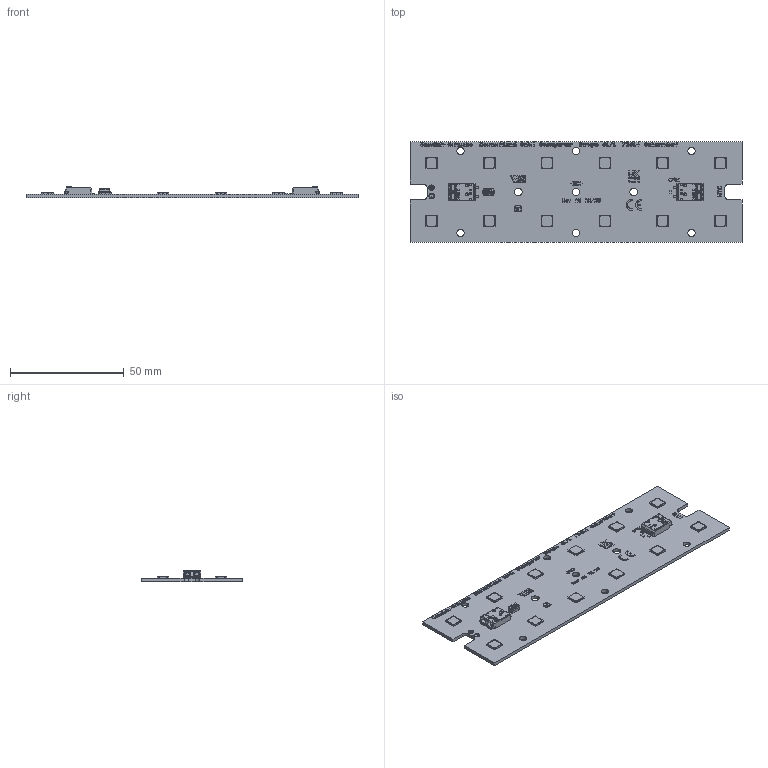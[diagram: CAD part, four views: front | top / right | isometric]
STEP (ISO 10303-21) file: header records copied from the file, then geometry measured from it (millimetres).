
FILE_DESCRIPTION(('Creo Elements/Direct Modeling STEP Export'),'2;1');
FILE_NAME('3D-Model_Image_MSP SC 2R_Z19_5050_T_12_yzz_G4.stp','2025-06-05T 9:51:57',(''),(''),'PTC Creo Elements/Direct Modeling STEP processor for AP214 (Solid Model)','PTC Creo Elements/Direct Modeling 19.0E 27-Jun-2016 (C) Parametric Technology GmbH','');
FILE_SCHEMA(('AUTOMOTIVE_DESIGN { 1 0 10303 214 1 1 1 1 }'));
Length unit declared in the file: millimetre
Products named in the file (115): p1; SMA__DO-214AC_.prt; SMA__DO-214AC_.STEP; Print.37; Print.38; Print.29; Print.34; Print.30; Print.31; Print.32; Print.35; Print.36; Print.33; Print.74; Print.76; Print.72; Print.75; Print.77; Print.78; Print.71; Print.79; Print.73; Print.80; Print.81; Print.94; Print.93; Print.95; Print.82; Print.89; Print.90; Print.83; Print.99; Print.101; Print.102; Print.92; Print.104; Print.84; Print.100; Print.87; Print.85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
Assembly tree (119 placements, depth 2):
  p1
  SMA__DO-214AC_.STEP
    SMA__DO-214AC_.prt
  Print_
    Print.105
    Print.23
    Print.24
    Print.22
    Print.20
    Print.19
    Print.18
    Print.28
    Print.27
    Print.26
    Print.21
    Print.25
    Print.15
    Print.16
    Print.17
    Print.14
    Print.11
    Print.10
    Print.12
    Print.9
    Print.7
    Print.13
    Print.8
    Print.49
    Print.50
    Print.59
    Print.56
    Print.58
    Print.54
    Print.53
    Print.52
    Print.51
    Print.55
    Print.61
    Print.63
    Print.70
    Print.65
    Print.69
    Print.68
    Print.67
    Print.66
    Print.62
    Print.60
    Print.64
    Print.3
    Print.2
    Print.1
    Print.4
    Print
    Print.5
    Print.6
    Print.44
    Print.46
    Print.41
    Print.40
    Print.39
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Bounding box: 146 x 44.4 x 4.95 mm (x, y, z)
Volume: 9702 mm3; surface area: 15200.9 mm2
Topology: 118 solids, 120 shells, 4171 faces, 10974 edges, 7196 vertices
Faces by surface type: plane 2895, cylinder 895, bspline 198, cone 60, extrusion 55, sphere 36, torus 32
Entity records: 148300 total; most frequent: CARTESIAN_POINT 31095, ORIENTED_EDGE 18312, DIRECTION 16905, EDGE_CURVE 9158, VECTOR 6743, LINE 6688, VERTEX_POINT 5986, AXIS2_PLACEMENT_3D 5081
